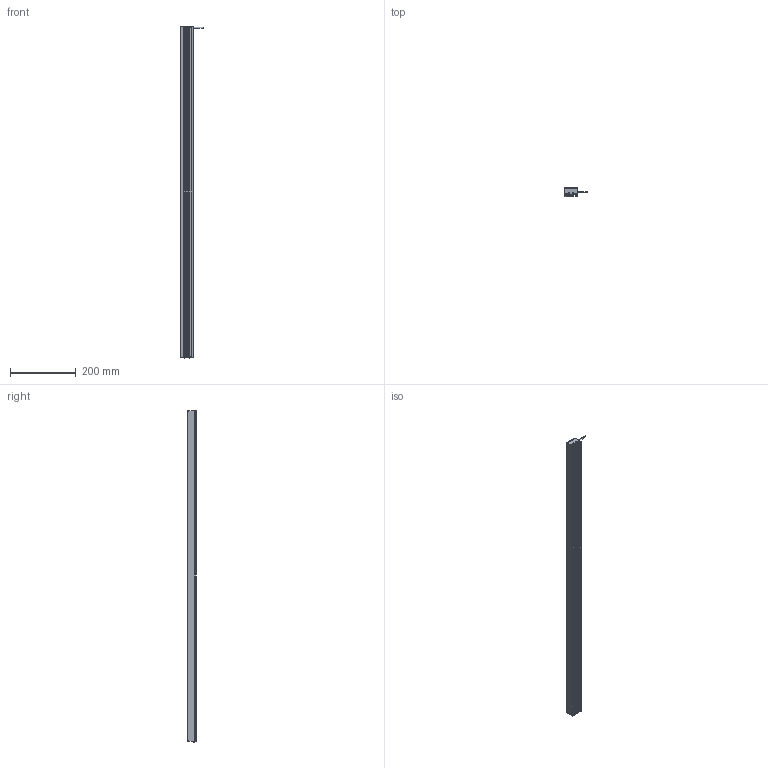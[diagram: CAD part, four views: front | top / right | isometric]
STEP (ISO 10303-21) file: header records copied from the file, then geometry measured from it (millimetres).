
FILE_DESCRIPTION((''),'2;1');
FILE_NAME('MV-LLDS-1002-38_ASM','2020-12-30T',('Administrator'),(''),'PRO/ENGINEER BY PARAMETRIC TECHNOLOGY CORPORATION, 2010100','PRO/ENGINEER BY PARAMETRIC TECHNOLOGY CORPORATION, 2010100','');
FILE_SCHEMA(('CONFIG_CONTROL_DESIGN'));
Length unit declared in the file: millimetre
Products named in the file (3): BL-6_1_; M3-5_3; MV-LLDS-1002-38_ASM
Assembly tree (5 placements, depth 2):
  MV-LLDS-1002-38_ASM
    BL-6_1_
    M3-5_3  x4
Bounding box: 68 x 27 x 1006.68 mm (x, y, z)
Volume: 837560.8 mm3; surface area: 234139.9 mm2
Topology: 5 solids, 13 shells, 349 faces, 942 edges, 608 vertices
Faces by surface type: plane 223, cylinder 78, cone 16, bspline 16, torus 8, sphere 8
Entity records: 8263 total; most frequent: CARTESIAN_POINT 1715, ORIENTED_EDGE 1354, DIRECTION 1312, EDGE_CURVE 687, VECTOR 516, LINE 516, VERTEX_POINT 449, AXIS2_PLACEMENT_3D 398
